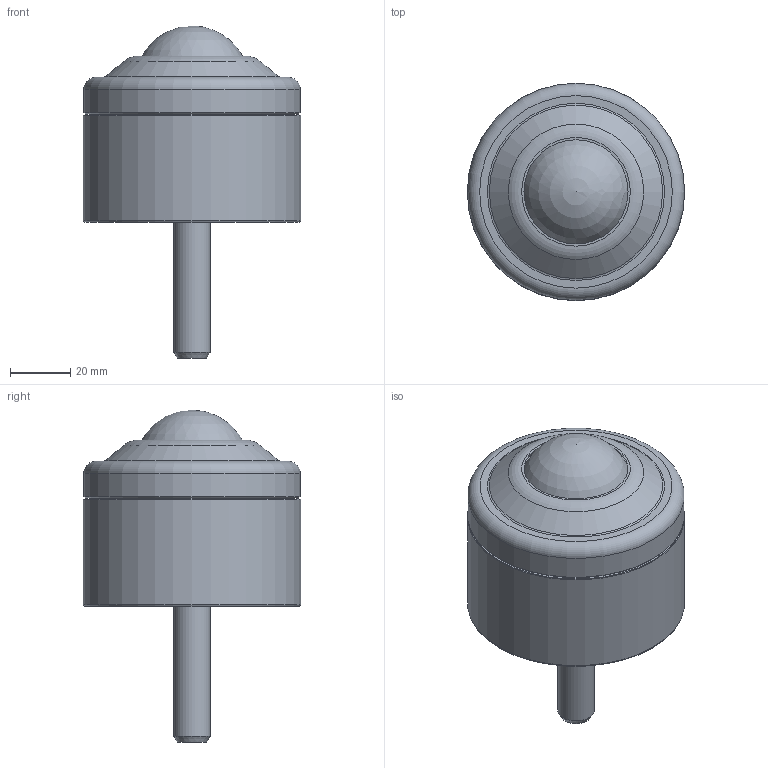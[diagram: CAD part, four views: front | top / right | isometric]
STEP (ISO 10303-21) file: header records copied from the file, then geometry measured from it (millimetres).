
FILE_DESCRIPTION(/* description */ (''),/* implementation_level */ '2;1');
FILE_NAME(/* name */ 'Z:\80-CAD共有ファイル\製品3D\X2\30C730FC30BF\X0\\03-IS-N\IS-38N.stp',/* time_stamp */ '2015-01-06T15:38:23+09:00',/* author */ ('yamaki'),/* organization */ (''),/* preprocessor_version */ 'ST-DEVELOPER v15.6',/* originating_system */ 'Autodesk Inventor 2015',/* authorisation */ '');
FILE_SCHEMA (('AUTOMOTIVE_DESIGN { 1 0 10303 214 3 1 1 }'));
Length unit declared in the file: millimetre
Products named in the file (3): 0338AT-01; 1260; 0338AA
Bounding box: 72 x 72 x 110 mm (x, y, z)
Volume: 217476.7 mm3; surface area: 23949.5 mm2
Topology: 2 solids, 2 shells, 34 faces, 65 edges, 40 vertices
Faces by surface type: plane 15, cone 7, torus 6, cylinder 5, sphere 1
Full cylindrical faces by diameter (mm): 10.106 x1, 12 x1, 68 x1, 71.8 x1, 72 x1
Entity records: 832 total; most frequent: DIRECTION 140, CARTESIAN_POINT 131, ORIENTED_EDGE 86, AXIS2_PLACEMENT_3D 64, EDGE_LOOP 58, EDGE_CURVE 43, VERTEX_POINT 37, STYLED_ITEM 36
